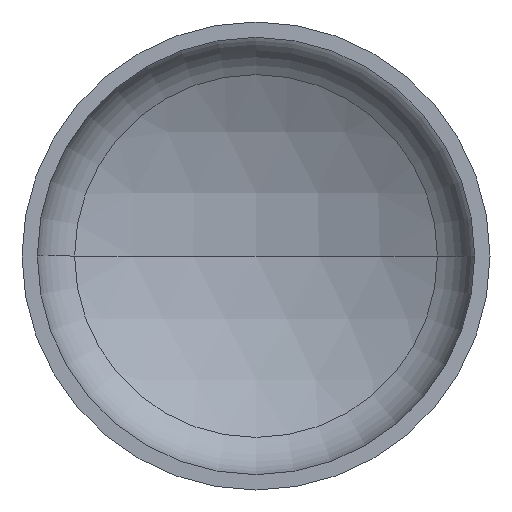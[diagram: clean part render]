
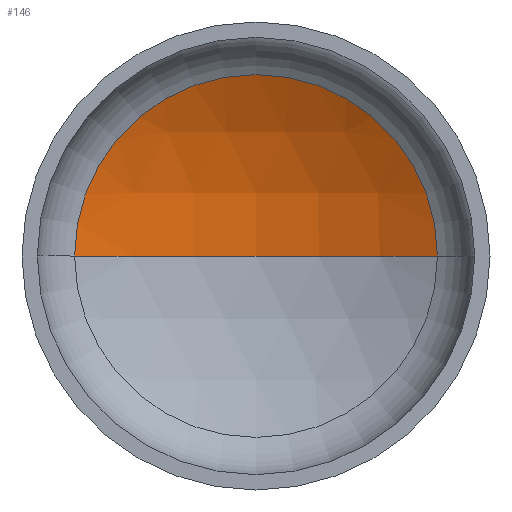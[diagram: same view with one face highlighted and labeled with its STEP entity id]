
A CAD part, front view. The second image highlights one B-rep face of the part: STEP entity #146.
In plain terms, the highlighted spherical face has radius 1760 mm.
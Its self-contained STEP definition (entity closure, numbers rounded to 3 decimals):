
#3 = AXIS2_PLACEMENT_3D ( 'NONE', #304, #60, #340 ) ;
#10 = AXIS2_PLACEMENT_3D ( 'NONE', #245, #158, #122 ) ;
#30 = AXIS2_PLACEMENT_3D ( 'NONE', #219, #128, #151 ) ;
#33 = AXIS2_PLACEMENT_3D ( 'NONE', #156, #157, #105 ) ;
#60 = DIRECTION ( 'NONE',  ( 0., 0., 1. ) ) ;
#63 = ORIENTED_EDGE ( 'NONE', *, *, #78, .T. ) ;
#78 = EDGE_CURVE ( 'NONE', #405, #94, #409, .T. ) ;
#94 = VERTEX_POINT ( 'NONE', #305 ) ;
#105 = DIRECTION ( 'NONE',  ( 1., 0., 0. ) ) ;
#122 = DIRECTION ( 'NONE',  ( -1., 0., 0. ) ) ;
#126 = CARTESIAN_POINT ( 'NONE',  ( 0., 637.802, 0. ) ) ;
#128 = DIRECTION ( 'NONE',  ( 0., 0., -1. ) ) ;
#146 = ADVANCED_FACE ( 'NONE', ( #404 ), #331, .F. ) ;
#150 = CIRCLE ( 'NONE', #10, 1760. ) ;
#151 = DIRECTION ( 'NONE',  ( -1., 0., 0. ) ) ;
#156 = CARTESIAN_POINT ( 'NONE',  ( 0., 417.428, 0. ) ) ;
#157 = DIRECTION ( 'NONE',  ( 0., -1., 0. ) ) ;
#158 = DIRECTION ( 'NONE',  ( 0., 0., -1. ) ) ;
#163 = EDGE_LOOP ( 'NONE', ( #174, #261, #63 ) ) ;
#174 = ORIENTED_EDGE ( 'NONE', *, *, #330, .F. ) ;
#219 = CARTESIAN_POINT ( 'NONE',  ( 0., -1122.198, 0. ) ) ;
#220 = CIRCLE ( 'NONE', #3, 1760. ) ;
#245 = CARTESIAN_POINT ( 'NONE',  ( 0., -1122.198, 0. ) ) ;
#261 = ORIENTED_EDGE ( 'NONE', *, *, #327, .T. ) ;
#300 = VERTEX_POINT ( 'NONE', #126 ) ;
#304 = CARTESIAN_POINT ( 'NONE',  ( 0., -1122.198, 0. ) ) ;
#305 = CARTESIAN_POINT ( 'NONE',  ( -852.732, 417.428, 0. ) ) ;
#327 = EDGE_CURVE ( 'NONE', #300, #405, #150, .T. ) ;
#330 = EDGE_CURVE ( 'NONE', #300, #94, #220, .T. ) ;
#331 = SPHERICAL_SURFACE ( 'NONE', #30, 1760. ) ;
#338 = CARTESIAN_POINT ( 'NONE',  ( 852.732, 417.428, 0. ) ) ;
#340 = DIRECTION ( 'NONE',  ( 1., 0., 0. ) ) ;
#404 = FACE_OUTER_BOUND ( 'NONE', #163, .T. ) ;
#405 = VERTEX_POINT ( 'NONE', #338 ) ;
#409 = CIRCLE ( 'NONE', #33, 852.732 ) ;
